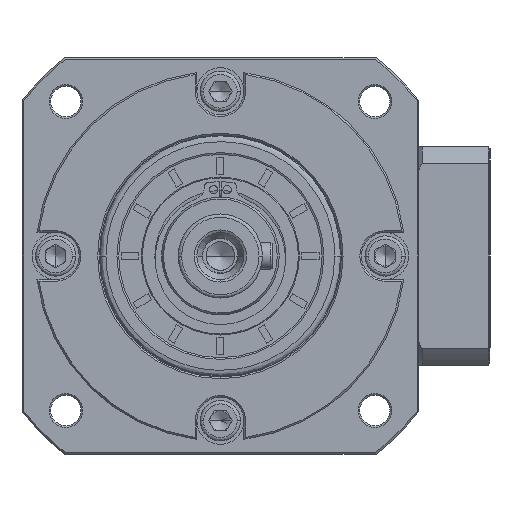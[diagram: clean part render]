
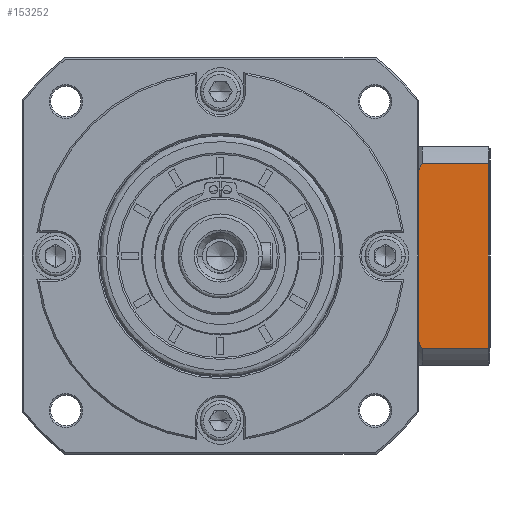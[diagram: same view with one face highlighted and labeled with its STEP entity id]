
A CAD part, left-side view. The second image highlights one B-rep face of the part: STEP entity #153252.
In plain terms, the highlighted planar face has unit normal (-1, 0, 0).
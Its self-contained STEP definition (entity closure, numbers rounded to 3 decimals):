
#7 = VECTOR ( 'NONE', #19209, 1000. ) ;
#2275 = DIRECTION ( 'NONE',  ( 0., 1., 0. ) ) ;
#2577 = VERTEX_POINT ( 'NONE', #100432 ) ;
#4348 = EDGE_CURVE ( 'NONE', #147489, #73924, #20140, .T. ) ;
#5615 = CARTESIAN_POINT ( 'NONE',  ( -20.633, -67.125, -114.663 ) ) ;
#6186 = B_SPLINE_CURVE_WITH_KNOTS ( 'NONE', 3,
 ( #50774, #145037, #158538, #77858, #172099, #91359 ),
 .UNSPECIFIED., .F., .F.,
 ( 4, 2, 4 ),
 ( 0., 0.008, 0.016 ),
 .UNSPECIFIED. ) ;
#6869 = CARTESIAN_POINT ( 'NONE',  ( -20.633, -50.528, -119.672 ) ) ;
#19094 = CARTESIAN_POINT ( 'NONE',  ( -20.633, -65.028, -119.672 ) ) ;
#19209 = DIRECTION ( 'NONE',  ( 0., -1., 0. ) ) ;
#20140 = LINE ( 'NONE', #63037, #163416 ) ;
#21104 = CARTESIAN_POINT ( 'NONE',  ( -20.633, -65.028, -119.672 ) ) ;
#32424 = ORIENTED_EDGE ( 'NONE', *, *, #45710, .F. ) ;
#32595 = CARTESIAN_POINT ( 'NONE',  ( -20.633, -71.057, -107.56 ) ) ;
#36009 = CARTESIAN_POINT ( 'NONE',  ( -20.633, -65.028, -145.653 ) ) ;
#36514 = ORIENTED_EDGE ( 'NONE', *, *, #37801, .F. ) ;
#37801 = EDGE_CURVE ( 'NONE', #114270, #150035, #118054, .T. ) ;
#40314 = LINE ( 'NONE', #170965, #143566 ) ;
#45710 = EDGE_CURVE ( 'NONE', #2577, #84895, #40314, .T. ) ;
#50774 = CARTESIAN_POINT ( 'NONE',  ( -20.633, -72.528, -160.049 ) ) ;
#52924 = EDGE_CURVE ( 'NONE', #84895, #114270, #104619, .T. ) ;
#54826 = ORIENTED_EDGE ( 'NONE', *, *, #136076, .F. ) ;
#55339 = ORIENTED_EDGE ( 'NONE', *, *, #52924, .F. ) ;
#60875 = CARTESIAN_POINT ( 'NONE',  ( -20.633, -65.028, -145.653 ) ) ;
#63037 = CARTESIAN_POINT ( 'NONE',  ( -20.633, -92.228, -165.163 ) ) ;
#67877 = EDGE_CURVE ( 'NONE', #72243, #2577, #124974, .T. ) ;
#69337 = ORIENTED_EDGE ( 'NONE', *, *, #79336, .F. ) ;
#70812 = CARTESIAN_POINT ( 'NONE',  ( -20.633, -92.728, -165.163 ) ) ;
#72243 = VERTEX_POINT ( 'NONE', #36009 ) ;
#73924 = VERTEX_POINT ( 'NONE', #160802 ) ;
#74415 = DIRECTION ( 'NONE',  ( 0., 1., 0. ) ) ;
#77858 = CARTESIAN_POINT ( 'NONE',  ( -20.633, -67.125, -150.662 ) ) ;
#79336 = EDGE_CURVE ( 'NONE', #150035, #147489, #138990, .T. ) ;
#84346 = DIRECTION ( 'NONE',  ( 0., 1., 0. ) ) ;
#84848 = VECTOR ( 'NONE', #74415, 1000. ) ;
#84895 = VERTEX_POINT ( 'NONE', #6869 ) ;
#89451 = CARTESIAN_POINT ( 'NONE',  ( -20.633, -65.028, -119.672 ) ) ;
#90211 = DIRECTION ( 'NONE',  ( 0., 0., 1. ) ) ;
#90997 = ORIENTED_EDGE ( 'NONE', *, *, #4348, .F. ) ;
#91359 = CARTESIAN_POINT ( 'NONE',  ( -20.633, -65.028, -145.653 ) ) ;
#92647 = LINE ( 'NONE', #163583, #124286 ) ;
#97548 = VERTEX_POINT ( 'NONE', #163445 ) ;
#99633 = CARTESIAN_POINT ( 'NONE',  ( -20.633, -65.977, -117.116 ) ) ;
#100380 = VECTOR ( 'NONE', #103004, 1000. ) ;
#100432 = CARTESIAN_POINT ( 'NONE',  ( -20.633, -50.528, -145.653 ) ) ;
#103004 = DIRECTION ( 'NONE',  ( 0., -1., 0. ) ) ;
#104619 = LINE ( 'NONE', #89451, #100380 ) ;
#113181 = CARTESIAN_POINT ( 'NONE',  ( -20.633, -69.664, -109.885 ) ) ;
#113296 = CARTESIAN_POINT ( 'NONE',  ( -20.633, -92.728, -105.277 ) ) ;
#114270 = VERTEX_POINT ( 'NONE', #21104 ) ;
#118054 = B_SPLINE_CURVE_WITH_KNOTS ( 'NONE', 3,
 ( #19094, #99633, #5615, #113181, #32595, #126821 ),
 .UNSPECIFIED., .F., .F.,
 ( 4, 2, 4 ),
 ( 0., 0.008, 0.016 ),
 .UNSPECIFIED. ) ;
#122828 = EDGE_CURVE ( 'NONE', #97548, #72243, #6186, .T. ) ;
#124286 = VECTOR ( 'NONE', #2275, 1000. ) ;
#124974 = LINE ( 'NONE', #60875, #84848 ) ;
#126821 = CARTESIAN_POINT ( 'NONE',  ( -20.633, -72.528, -105.277 ) ) ;
#130038 = AXIS2_PLACEMENT_3D ( 'NONE', #70812, #165119, #84346 ) ;
#130107 = ORIENTED_EDGE ( 'NONE', *, *, #67877, .F. ) ;
#136076 = EDGE_CURVE ( 'NONE', #73924, #97548, #92647, .T. ) ;
#136843 = CARTESIAN_POINT ( 'NONE',  ( -20.633, -72.528, -105.277 ) ) ;
#138990 = LINE ( 'NONE', #113296, #7 ) ;
#143566 = VECTOR ( 'NONE', #90211, 1000. ) ;
#145037 = CARTESIAN_POINT ( 'NONE',  ( -20.633, -71.057, -157.765 ) ) ;
#147489 = VERTEX_POINT ( 'NONE', #171945 ) ;
#150035 = VERTEX_POINT ( 'NONE', #136843 ) ;
#150956 = PLANE ( 'NONE',  #130038 ) ;
#153252 = ADVANCED_FACE ( 'NONE', ( #160710 ), #150956, .F. ) ;
#154302 = ORIENTED_EDGE ( 'NONE', *, *, #122828, .F. ) ;
#158538 = CARTESIAN_POINT ( 'NONE',  ( -20.633, -69.664, -155.44 ) ) ;
#160710 = FACE_OUTER_BOUND ( 'NONE', #173712, .T. ) ;
#160802 = CARTESIAN_POINT ( 'NONE',  ( -20.633, -92.228, -160.049 ) ) ;
#163416 = VECTOR ( 'NONE', #170827, 1000. ) ;
#163445 = CARTESIAN_POINT ( 'NONE',  ( -20.633, -72.528, -160.049 ) ) ;
#163583 = CARTESIAN_POINT ( 'NONE',  ( -20.633, -92.728, -160.049 ) ) ;
#165119 = DIRECTION ( 'NONE',  ( 1., 0., 0. ) ) ;
#170827 = DIRECTION ( 'NONE',  ( 0., 0., -1. ) ) ;
#170965 = CARTESIAN_POINT ( 'NONE',  ( -20.633, -50.528, -165.163 ) ) ;
#171945 = CARTESIAN_POINT ( 'NONE',  ( -20.633, -92.228, -105.277 ) ) ;
#172099 = CARTESIAN_POINT ( 'NONE',  ( -20.633, -65.977, -148.209 ) ) ;
#173712 = EDGE_LOOP ( 'NONE', ( #90997, #69337, #36514, #55339, #32424, #130107, #154302, #54826 ) ) ;
